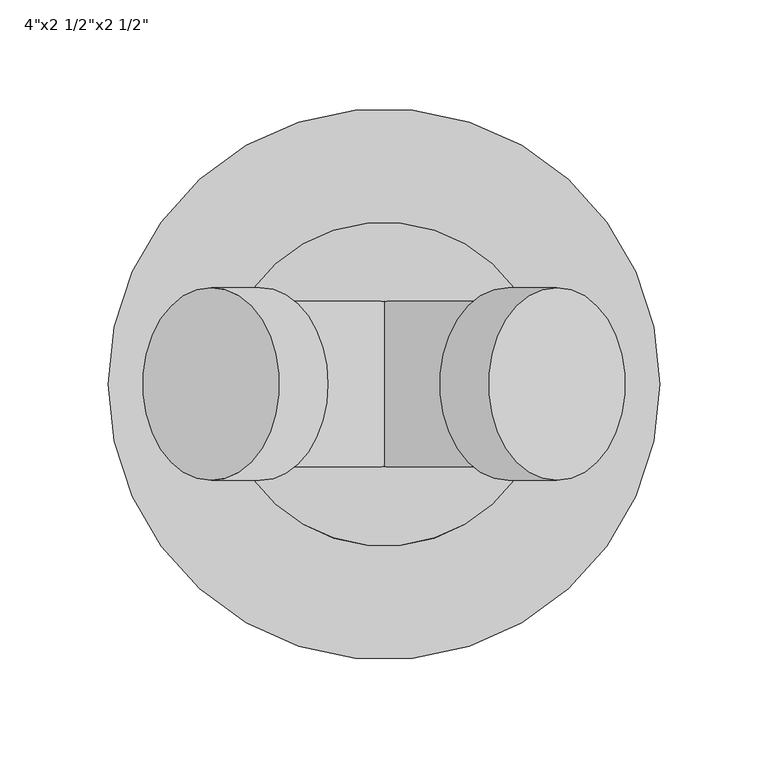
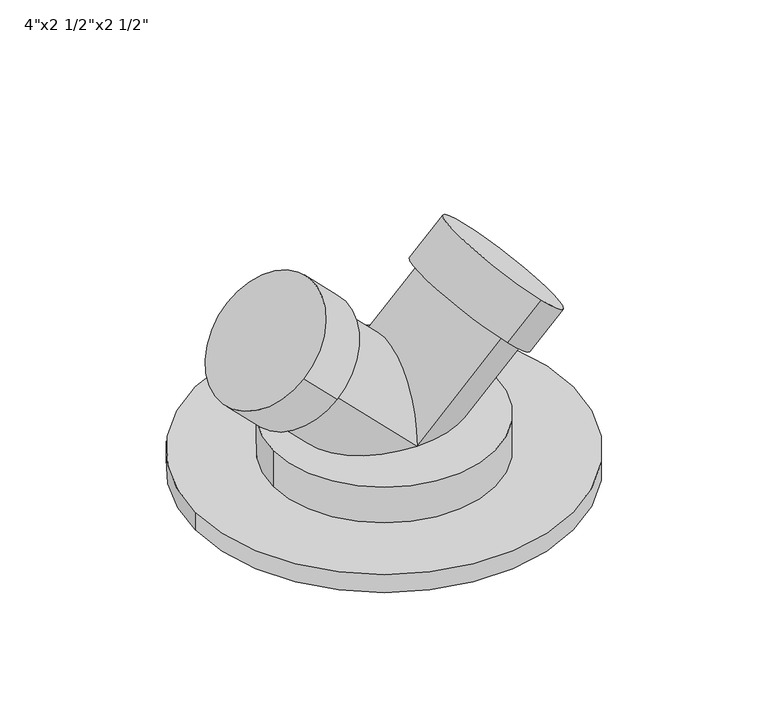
"""IFC4 building model written with IfcOpenShell, lengths in millimetres: proxy geometry."""

from ifc_helpers import new_model, si_unit, frame, origin, place, context, project, spatial, circle_curve, ellipse_curve, source, transform, mapped, element, save
from ifc_brep_helpers import plane_surface, cylinder_surface, advanced_brep


def proxy_83300ab8(model_context):
    return source(origin(), model_context, "Body", "AdvancedBrep", [
        advanced_brep(
        [(-127.0, 0.0, 0.0), (127.0, 0.0, 0.0), (-127.0, 0.0, 12.7), (127.0, 0.0, 12.7), (-74.6125, 0.0, 12.7), (74.6125, 0.0, 12.7), (-74.6125, 0.0, 38.1), (74.6125, 0.0, 38.1), (0.0, -38.1, 38.1), (0.0, 38.1, 38.1), (-57.2491328, 38.1, 95.3491328), (-57.2491328, -38.1, 95.3491328), (57.2491328, 38.1, 95.3491328), (57.2491328, -38.1, 95.3491328), (-57.2491328, 44.45, 95.3491328), (-57.2491328, -44.45, 95.3491328), (-79.6997731, 44.45, 117.7997731), (-79.6997731, -44.45, 117.7997731), (57.2491328, 44.45, 95.3491328), (57.2491328, -44.45, 95.3491328), (79.6997731, 44.45, 117.7997731), (79.6997731, -44.45, 117.7997731)],
        [
            (0, 1, circle_curve(frame((0.0, 0.0, 0.0), z_axis=(0.0, 0.0, -1.0), x_axis=(1.0, 0.0, 0.0)), 127.0)),
            (1, 0, circle_curve(frame((0.0, 0.0, 0.0), z_axis=(0.0, 0.0, -1.0), x_axis=(1.0, 0.0, 0.0)), 127.0)),
            (2, 3, circle_curve(frame((0.0, 0.0, 12.7), z_axis=(0.0, 0.0, 1.0), x_axis=(1.0, 0.0, 0.0)), 127.0)),
            (3, 2, circle_curve(frame((0.0, 0.0, 12.7), z_axis=(0.0, 0.0, 1.0), x_axis=(1.0, 0.0, 0.0)), 127.0)),
            (4, 5, circle_curve(frame((0.0, 0.0, 12.7), z_axis=(0.0, 0.0, -1.0), x_axis=(1.0, 0.0, 0.0)), 74.6125)),
            (5, 4, circle_curve(frame((0.0, 0.0, 12.7), z_axis=(0.0, 0.0, -1.0), x_axis=(1.0, 0.0, 0.0)), 74.6125)),
            (0, 2),
            (3, 1),
            (6, 7, circle_curve(frame((0.0, 0.0, 38.1), z_axis=(0.0, 0.0, 1.0), x_axis=(1.0, 0.0, 0.0)), 74.6125)),
            (7, 6, circle_curve(frame((0.0, 0.0, 38.1), z_axis=(0.0, 0.0, 1.0), x_axis=(1.0, 0.0, 0.0)), 74.6125)),
            (8, 9, ellipse_curve(frame((0.0, 0.0, 38.1), z_axis=(0.0, 0.0, -1.0), x_axis=(1.0, 0.0, 0.0)), 53.8815367, 38.1)),
            (9, 8, ellipse_curve(frame((0.0, 0.0, 38.1), z_axis=(0.0, 0.0, -1.0), x_axis=(-1.0, 0.0, 0.0)), 53.8815367, 38.1)),
            (7, 5),
            (4, 6),
            (9, 10),
            (10, 11, circle_curve(frame((-57.2491328, 0.0, 95.3491328), z_axis=(0.7071067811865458, 0.0, -0.7071067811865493), x_axis=(0.0, -1.0, 0.0)), 38.1)),
            (11, 8),
            (8, 9, ellipse_curve(frame((0.0, 0.0, 38.1), z_axis=(-1.0, 0.0, 0.0), x_axis=(0.0, 0.0, -1.0)), 53.8815367, 38.1)),
            (11, 10, circle_curve(frame((-57.2491328, 0.0, 95.3491328), z_axis=(0.7071067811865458, 0.0, -0.7071067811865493), x_axis=(0.0, -1.0, 0.0)), 38.1)),
            (9, 12),
            (12, 13, circle_curve(frame((57.2491328, 0.0, 95.3491328), z_axis=(-0.7071067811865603, 0.0, -0.7071067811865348), x_axis=(0.0, -1.0, 0.0)), 38.1)),
            (13, 8),
            (13, 12, circle_curve(frame((57.2491328, 0.0, 95.3491328), z_axis=(-0.7071067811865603, 0.0, -0.7071067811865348), x_axis=(0.0, -1.0, 0.0)), 38.1)),
            (14, 15, circle_curve(frame((-57.2491328, 0.0, 95.3491328), z_axis=(0.7071067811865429, 0.0, -0.7071067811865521), x_axis=(0.0, -1.0, 0.0)), 44.45)),
            (15, 14, circle_curve(frame((-57.2491328, 0.0, 95.3491328), z_axis=(0.7071067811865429, 0.0, -0.7071067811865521), x_axis=(0.0, -1.0, 0.0)), 44.45)),
            (16, 17, circle_curve(frame((-79.6997731, 0.0, 117.7997731), z_axis=(-0.7071067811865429, 0.0, 0.7071067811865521), x_axis=(0.0, -1.0, 0.0)), 44.45)),
            (17, 16, circle_curve(frame((-79.6997731, 0.0, 117.7997731), z_axis=(-0.7071067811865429, 0.0, 0.7071067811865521), x_axis=(0.0, -1.0, 0.0)), 44.45)),
            (14, 16),
            (17, 15),
            (18, 19, circle_curve(frame((57.2491328, 0.0, 95.3491328), z_axis=(-0.7071067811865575, 0.0, -0.7071067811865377), x_axis=(0.0, -1.0, 0.0)), 44.45)),
            (19, 18, circle_curve(frame((57.2491328, 0.0, 95.3491328), z_axis=(-0.7071067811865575, 0.0, -0.7071067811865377), x_axis=(0.0, -1.0, 0.0)), 44.45)),
            (20, 21, circle_curve(frame((79.6997731, 0.0, 117.7997731), z_axis=(0.7071067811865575, 0.0, 0.7071067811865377), x_axis=(0.0, -1.0, 0.0)), 44.45)),
            (21, 20, circle_curve(frame((79.6997731, 0.0, 117.7997731), z_axis=(0.7071067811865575, 0.0, 0.7071067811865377), x_axis=(0.0, -1.0, 0.0)), 44.45)),
            (18, 20),
            (21, 19),
        ],
        [
            plane_surface(frame((0.0, 0.0, 0.0), z_axis=(0.0, 0.0, -1.0), x_axis=(0.0, -1.0, 0.0))),
            plane_surface(frame((0.0, 0.0, 12.7), z_axis=(0.0, 0.0, 1.0), x_axis=(0.0, -1.0, 0.0))),
            cylinder_surface(frame((0.0, 0.0, 0.0), z_axis=(0.0, 0.0, -1.0), x_axis=(1.0, 0.0, 0.0)), 127.0),
            plane_surface(frame((0.0, 0.0, 38.1), z_axis=(0.0, 0.0, 1.0), x_axis=(0.0, -1.0, 0.0))),
            cylinder_surface(frame((0.0, 0.0, 12.7), z_axis=(0.0, 0.0, -1.0), x_axis=(1.0, 0.0, 0.0)), 74.6125),
            cylinder_surface(frame((0.0, 0.0, 38.1), z_axis=(0.7071067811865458, 0.0, -0.7071067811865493), x_axis=(0.0, -1.0, 0.0)), 38.1),
            cylinder_surface(frame((0.0, 0.0, 38.1), z_axis=(-0.7071067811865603, 0.0, -0.7071067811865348), x_axis=(0.0, -1.0, 0.0)), 38.1),
            plane_surface(frame((-57.2491328, 0.0, 95.3491328), z_axis=(0.707106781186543, 0.0, -0.7071067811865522), x_axis=(0.0, -1.0, 0.0))),
            plane_surface(frame((-79.6997731, 0.0, 117.7997731), z_axis=(-0.707106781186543, 0.0, 0.7071067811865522), x_axis=(0.0, -1.0, 0.0))),
            cylinder_surface(frame((-57.2491328, 0.0, 95.3491328), z_axis=(0.7071067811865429, 0.0, -0.7071067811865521), x_axis=(0.0, -1.0, 0.0)), 44.45),
            plane_surface(frame((57.2491328, 0.0, 95.3491328), z_axis=(-0.7071067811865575, 0.0, -0.7071067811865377), x_axis=(0.0, -1.0, 0.0))),
            plane_surface(frame((79.6997731, 0.0, 117.7997731), z_axis=(0.7071067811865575, 0.0, 0.7071067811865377), x_axis=(0.0, -1.0, 0.0))),
            cylinder_surface(frame((57.2491328, 0.0, 95.3491328), z_axis=(-0.7071067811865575, 0.0, -0.7071067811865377), x_axis=(0.0, -1.0, 0.0)), 44.45),
        ],
        [
            (0, [[1, 2]]),
            (1, [[3, 4], [5, 6]]),
            (2, [[-1, 7, -4, 8]]),
            (2, [[-2, -8, -3, -7]]),
            (3, [[9, 10], [11, 12]]),
            (4, [[-10, 13, -5, 14]]),
            (4, [[-9, -14, -6, -13]]),
            (5, [[15, 16, 17, 18]]),
            (5, [[-15, -11, -17, 19]]),
            (6, [[20, 21, 22, -12]]),
            (6, [[-20, -18, -22, 23]]),
            (7, [[24, 25], [-16, -19]]),
            (8, [[26, 27]]),
            (9, [[-24, 28, -27, 29]]),
            (9, [[-25, -29, -26, -28]]),
            (10, [[30, 31], [-21, -23]]),
            (11, [[32, 33]]),
            (12, [[-30, 34, -33, 35]]),
            (12, [[-31, -35, -32, -34]]),
        ],
    ),
    ])


if __name__ == "__main__":
    model = new_model("IFC4")
    model_context = context("Model", 3, world=origin())
    ifc_project = project(units=[si_unit("LENGTHUNIT", "METRE", prefix="MILLI")], contexts=[model_context])
    site = spatial("IfcSite", under=ifc_project)
    building = spatial("IfcBuilding", under=site)
    placement = place(None, origin())
    proxy_shape = proxy_83300ab8(model_context)
    element("IfcBuildingElementProxy", 1, Name="Fire Department Inlet Connection - 2 Way - Projecting : 4\"x2 1/2\"x2 1/2\"", ObjectType="Fire Department Inlet Connection - 2 Way - Projecting : 4\"x2 1/2\"x2 1/2\"", at=placement, inside=building, context=model_context, shape_type="MappedRepresentation", body=[
        mapped(proxy_shape, transform((0.0, 0.0, 0.0), x_axis=(1.0, 0.0, 0.0), y_axis=(0.0, 1.0, 0.0), z_axis=(0.0, 0.0, 1.0))),
    ])
    save(model, "model.ifc")
